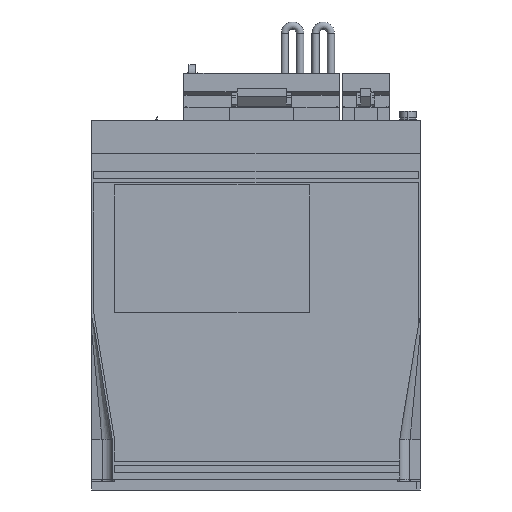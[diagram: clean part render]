
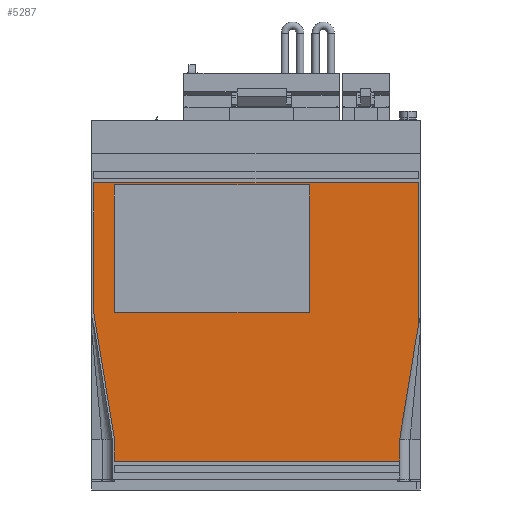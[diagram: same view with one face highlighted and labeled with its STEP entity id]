
A CAD part, left-side view. The second image highlights one B-rep face of the part: STEP entity #5287.
In plain terms, the highlighted planar face has unit normal (-1, 0, 0).
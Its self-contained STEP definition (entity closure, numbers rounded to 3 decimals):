
#87 = VERTEX_POINT ( 'NONE', #17505 ) ;
#1635 = EDGE_CURVE ( 'NONE', #15605, #1786, #20148, .T. ) ;
#1786 = VERTEX_POINT ( 'NONE', #20414 ) ;
#4062 = ORIENTED_EDGE ( 'NONE', *, *, #5277, .T. ) ;
#5205 = VERTEX_POINT ( 'NONE', #26100 ) ;
#5209 = EDGE_CURVE ( 'NONE', #5270, #5205, #26095, .T. ) ;
#5248 = EDGE_CURVE ( 'NONE', #5250, #87, #26170, .T. ) ;
#5250 = VERTEX_POINT ( 'NONE', #26166 ) ;
#5270 = VERTEX_POINT ( 'NONE', #26198 ) ;
#5277 = EDGE_CURVE ( 'NONE', #1786, #5270, #26186, .T. ) ;
#5282 = EDGE_CURVE ( 'NONE', #5205, #5321, #26243, .T. ) ;
#5287 = ADVANCED_FACE ( 'NONE', ( #26238, #26237 ), #26235, .T. ) ;
#5289 = EDGE_LOOP ( 'NONE', ( #5291, #5332, #5338, #5345 ) ) ;
#5291 = ORIENTED_EDGE ( 'NONE', *, *, #5328, .F. ) ;
#5294 = VERTEX_POINT ( 'NONE', #26224 ) ;
#5300 = EDGE_CURVE ( 'NONE', #5302, #5250, #26217, .T. ) ;
#5302 = VERTEX_POINT ( 'NONE', #26213 ) ;
#5320 = EDGE_CURVE ( 'NONE', #5321, #5302, #26263, .T. ) ;
#5321 = VERTEX_POINT ( 'NONE', #26259 ) ;
#5328 = EDGE_CURVE ( 'NONE', #5294, #5329, #26320, .T. ) ;
#5329 = VERTEX_POINT ( 'NONE', #26316 ) ;
#5332 = ORIENTED_EDGE ( 'NONE', *, *, #5334, .F. ) ;
#5334 = EDGE_CURVE ( 'NONE', #5336, #5294, #26304, .T. ) ;
#5336 = VERTEX_POINT ( 'NONE', #26300 ) ;
#5338 = ORIENTED_EDGE ( 'NONE', *, *, #5340, .F. ) ;
#5340 = EDGE_CURVE ( 'NONE', #5343, #5336, #26298, .T. ) ;
#5343 = VERTEX_POINT ( 'NONE', #26293 ) ;
#5345 = ORIENTED_EDGE ( 'NONE', *, *, #5347, .F. ) ;
#5347 = EDGE_CURVE ( 'NONE', #5329, #5343, #26354, .T. ) ;
#5349 = EDGE_LOOP ( 'NONE', ( #5351, #5354, #4062, #5388, #5390, #5392, #5394, #5396, #5399 ) ) ;
#5351 = ORIENTED_EDGE ( 'NONE', *, *, #15603, .T. ) ;
#5354 = ORIENTED_EDGE ( 'NONE', *, *, #1635, .T. ) ;
#5388 = ORIENTED_EDGE ( 'NONE', *, *, #5209, .T. ) ;
#5390 = ORIENTED_EDGE ( 'NONE', *, *, #5282, .T. ) ;
#5392 = ORIENTED_EDGE ( 'NONE', *, *, #5320, .T. ) ;
#5394 = ORIENTED_EDGE ( 'NONE', *, *, #5300, .T. ) ;
#5396 = ORIENTED_EDGE ( 'NONE', *, *, #5248, .T. ) ;
#5399 = ORIENTED_EDGE ( 'NONE', *, *, #21343, .F. ) ;
#15603 = EDGE_CURVE ( 'NONE', #15604, #15605, #45573, .T. ) ;
#15604 = VERTEX_POINT ( 'NONE', #45567 ) ;
#15605 = VERTEX_POINT ( 'NONE', #45638 ) ;
#17505 = CARTESIAN_POINT ( 'NONE',  ( -5.7, -145., 14.1 ) ) ;
#20148 = B_SPLINE_CURVE_WITH_KNOTS ( 'NONE', 3,
 ( #20204, #20203, #20202, #20201 ),
 .UNSPECIFIED., .F., .F.,
 ( 4, 4 ),
 ( 0., 0.004 ),
 .UNSPECIFIED. ) ;
#20201 = CARTESIAN_POINT ( 'NONE',  ( -5.7, -154., 79.394 ) ) ;
#20202 = CARTESIAN_POINT ( 'NONE',  ( -5.7, -153.716, 78.038 ) ) ;
#20203 = CARTESIAN_POINT ( 'NONE',  ( -5.7, -153.473, 76.674 ) ) ;
#20204 = CARTESIAN_POINT ( 'NONE',  ( -5.7, -153.25, 75.306 ) ) ;
#20414 = CARTESIAN_POINT ( 'NONE',  ( -5.7, -154., 79.394 ) ) ;
#21343 = EDGE_CURVE ( 'NONE', #15604, #87, #49196, .T. ) ;
#26092 = DIRECTION ( 'NONE',  ( 0., 1., 0. ) ) ;
#26093 = VECTOR ( 'NONE', #26092, 1000. ) ;
#26094 = CARTESIAN_POINT ( 'NONE',  ( -5.7, 4., 149.6 ) ) ;
#26095 = LINE ( 'NONE', #26094, #26093 ) ;
#26100 = CARTESIAN_POINT ( 'NONE',  ( -5.7, 4., 149.6 ) ) ;
#26166 = CARTESIAN_POINT ( 'NONE',  ( -5.7, -6., 14.1 ) ) ;
#26167 = DIRECTION ( 'NONE',  ( 0., -1., 0. ) ) ;
#26168 = VECTOR ( 'NONE', #26167, 1000. ) ;
#26169 = CARTESIAN_POINT ( 'NONE',  ( -5.7, -6., 14.1 ) ) ;
#26170 = LINE ( 'NONE', #26169, #26168 ) ;
#26183 = DIRECTION ( 'NONE',  ( 0., 0., 1. ) ) ;
#26184 = VECTOR ( 'NONE', #26183, 1000. ) ;
#26185 = CARTESIAN_POINT ( 'NONE',  ( -5.7, -154., 14.1 ) ) ;
#26186 = LINE ( 'NONE', #26185, #26184 ) ;
#26198 = CARTESIAN_POINT ( 'NONE',  ( -5.7, -154., 149.6 ) ) ;
#26213 = CARTESIAN_POINT ( 'NONE',  ( -5.7, -6., 24.881 ) ) ;
#26214 = DIRECTION ( 'NONE',  ( 0., 0., -1. ) ) ;
#26215 = VECTOR ( 'NONE', #26214, 1000. ) ;
#26216 = CARTESIAN_POINT ( 'NONE',  ( -5.7, -6., 24.881 ) ) ;
#26217 = LINE ( 'NONE', #26216, #26215 ) ;
#26224 = CARTESIAN_POINT ( 'NONE',  ( -5.7, -6., 86.6 ) ) ;
#26230 = DIRECTION ( 'NONE',  ( 0., -1., 0. ) ) ;
#26232 = DIRECTION ( 'NONE',  ( -1., 0., 0. ) ) ;
#26233 = CARTESIAN_POINT ( 'NONE',  ( -5.7, -154., 149.6 ) ) ;
#26234 = AXIS2_PLACEMENT_3D ( 'NONE', #26233, #26232, #26230 ) ;
#26235 = PLANE ( 'NONE',  #26234 ) ;
#26237 = FACE_OUTER_BOUND ( 'NONE', #5349, .T. ) ;
#26238 = FACE_BOUND ( 'NONE', #5289, .T. ) ;
#26239 = DIRECTION ( 'NONE',  ( 0., 0., -1. ) ) ;
#26240 = VECTOR ( 'NONE', #26239, 1000. ) ;
#26241 = CARTESIAN_POINT ( 'NONE',  ( -5.7, 4., 86.104 ) ) ;
#26243 = LINE ( 'NONE', #26241, #26240 ) ;
#26259 = CARTESIAN_POINT ( 'NONE',  ( -5.7, 4., 86.104 ) ) ;
#26260 = DIRECTION ( 'NONE',  ( 0., -0.161, -0.987 ) ) ;
#26261 = VECTOR ( 'NONE', #26260, 1000. ) ;
#26262 = CARTESIAN_POINT ( 'NONE',  ( -5.7, 4., 86.104 ) ) ;
#26263 = LINE ( 'NONE', #26262, #26261 ) ;
#26293 = CARTESIAN_POINT ( 'NONE',  ( -5.7, -101., 148.6 ) ) ;
#26294 = DIRECTION ( 'NONE',  ( 0., 1., 0. ) ) ;
#26295 = VECTOR ( 'NONE', #26294, 1000. ) ;
#26297 = CARTESIAN_POINT ( 'NONE',  ( -5.7, -154., 148.6 ) ) ;
#26298 = LINE ( 'NONE', #26297, #26295 ) ;
#26300 = CARTESIAN_POINT ( 'NONE',  ( -5.7, -6., 148.6 ) ) ;
#26301 = DIRECTION ( 'NONE',  ( 0., 0., -1. ) ) ;
#26302 = VECTOR ( 'NONE', #26301, 1000. ) ;
#26303 = CARTESIAN_POINT ( 'NONE',  ( -5.7, -6., 149.6 ) ) ;
#26304 = LINE ( 'NONE', #26303, #26302 ) ;
#26316 = CARTESIAN_POINT ( 'NONE',  ( -5.7, -101., 86.6 ) ) ;
#26317 = DIRECTION ( 'NONE',  ( 0., -1., 0. ) ) ;
#26318 = VECTOR ( 'NONE', #26317, 1000. ) ;
#26319 = CARTESIAN_POINT ( 'NONE',  ( -5.7, -154., 86.6 ) ) ;
#26320 = LINE ( 'NONE', #26319, #26318 ) ;
#26351 = DIRECTION ( 'NONE',  ( 0., 0., 1. ) ) ;
#26352 = VECTOR ( 'NONE', #26351, 1000. ) ;
#26353 = CARTESIAN_POINT ( 'NONE',  ( -5.7, -101., 149.6 ) ) ;
#26354 = LINE ( 'NONE', #26353, #26352 ) ;
#45567 = CARTESIAN_POINT ( 'NONE',  ( -5.7, -145., 24.8 ) ) ;
#45569 = DIRECTION ( 'NONE',  ( 0., -0.161, 0.987 ) ) ;
#45570 = VECTOR ( 'NONE', #45569, 1000. ) ;
#45572 = CARTESIAN_POINT ( 'NONE',  ( -5.7, -145., 24.8 ) ) ;
#45573 = LINE ( 'NONE', #45572, #45570 ) ;
#45638 = CARTESIAN_POINT ( 'NONE',  ( -5.7, -153.25, 75.306 ) ) ;
#49193 = DIRECTION ( 'NONE',  ( 0., 0., -1. ) ) ;
#49194 = VECTOR ( 'NONE', #49193, 1000. ) ;
#49195 = CARTESIAN_POINT ( 'NONE',  ( -5.7, -145., 24.8 ) ) ;
#49196 = LINE ( 'NONE', #49195, #49194 ) ;
